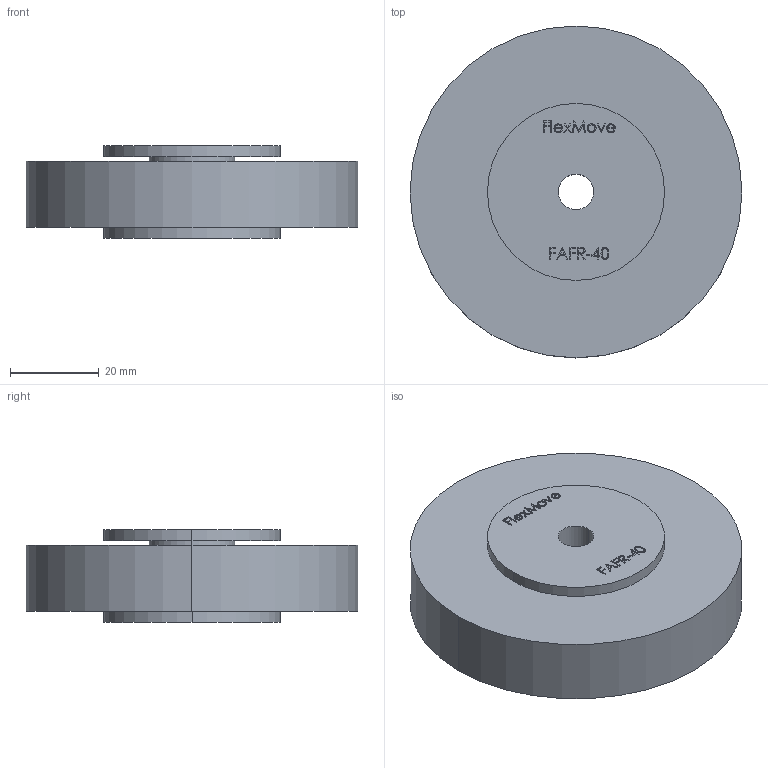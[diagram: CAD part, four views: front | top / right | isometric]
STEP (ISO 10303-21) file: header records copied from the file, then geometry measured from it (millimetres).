
FILE_DESCRIPTION (( 'STEP AP214' ), '1' );
FILE_NAME ('FASR 75x15M.STEP', '2017-04-06T09:09:47', ( '' ), ( '' ), 'SwSTEP 2.0', 'SolidWorks 2016', '' );
FILE_SCHEMA (( 'AUTOMOTIVE_DESIGN' ));
Length unit declared in the file: millimetre
Products named in the file (3): FASR 75x15M; Demi Axe FAFR-40; Corps FAFR-40
Assembly tree (3 placements, depth 2):
  FASR 75x15M
    Corps FAFR-40
    Demi Axe FAFR-40  x2
Bounding box: 75 x 75 x 21.2 mm (x, y, z)
Volume: 74739.8 mm3; surface area: 19952.7 mm2
Topology: 3 solids, 3 shells, 412 faces, 1074 edges, 716 vertices
Faces by surface type: plane 294, bspline 92, cylinder 26
Entity records: 10803 total; most frequent: CARTESIAN_POINT 3934, ORIENTED_EDGE 1086, DIRECTION 825, EDGE_CURVE 543, VECTOR 415, LINE 415, VERTEX_POINT 362, EDGE_LOOP 237
